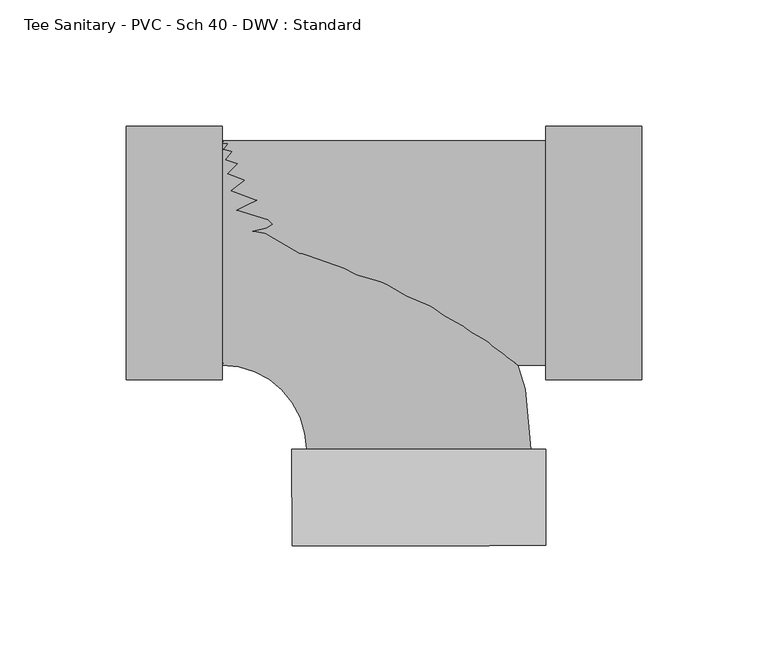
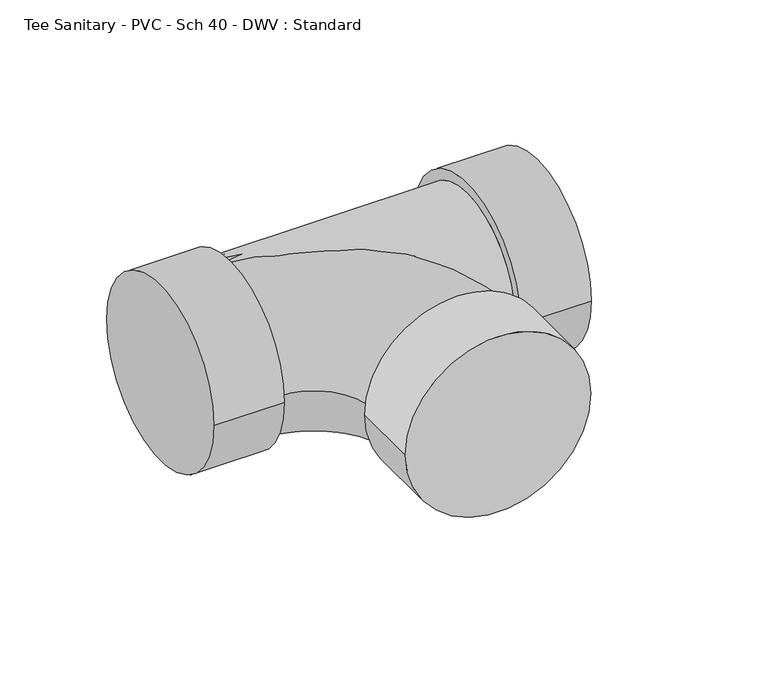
"""IFC4 building model written with IfcOpenShell, lengths in millimetres: pipe fitting geometry, Tee Sanitary - PVC - Sch 40 - DWV : Standard."""

from ifc_helpers import new_model, si_unit, point, frame, origin, place, context, project, spatial, circle_curve, ellipse_curve, trimmed, source, transform, mapped, element, save
from ifc_brep_helpers import plane_surface, cylinder_surface, revolved_surface, advanced_brep


def tee_sanitary_pvc_sch_40_dwv_standard_db5afb07(model_context):
    return source(origin(), model_context, "Body", "AdvancedBrep", [
        advanced_brep(
        [(-77.8002, -44.45, 0.0), (-77.8002, 44.45, 0.0), (-44.4025865, -77.8272698, 0.0), (44.497397, -77.7731013, 0.0), (50.337211, -115.86955, 0.0), (-50.1959704, -115.9308069, 0.0), (50.3139959, -77.7695571, 0.0), (-50.2191855, -77.830814, 0.0)],
        [
            (0, 1, circle_curve(frame((-77.8002, 0.0, 0.0), z_axis=(-1.0, 0.0, 0.0), x_axis=(0.0, 1.0, 0.0)), 44.45)),
            (1, 0, circle_curve(frame((-77.8002, 0.0, 0.0), z_axis=(-1.0, 0.0, 0.0), x_axis=(0.0, 1.0, 0.0)), 44.45)),
            (0, 2, circle_curve(frame((-77.8002, -77.8476197, 0.0), z_axis=(0.0, 0.0, -1.0), x_axis=(0.0, 1.0, 0.0)), 33.3976197)),
            (2, 3, circle_curve(frame((0.0474052, -77.8001856, 0.0), z_axis=(-0.0006093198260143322, 0.9999998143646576, 0.0), x_axis=(0.9999998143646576, 0.0006093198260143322, 0.0)), 44.45)),
            (3, 1, circle_curve(frame((-77.8002, -77.8476197, 0.0), z_axis=(0.0, 0.0, 1.0), x_axis=(0.0, 1.0, 0.0)), 122.2976197)),
            (3, 2, circle_curve(frame((0.0474052, -77.8001856, 0.0), z_axis=(-0.0006093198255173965, 0.9999998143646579, 0.0), x_axis=(0.9999998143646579, 0.0006093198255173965, 0.0)), 44.45)),
            (4, 5, circle_curve(frame((0.0706203, -115.9001785, 0.0), z_axis=(0.0006093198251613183, -0.9999998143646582, 0.0), x_axis=(-0.9999998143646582, -0.0006093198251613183, 0.0)), 50.2666)),
            (5, 4, circle_curve(frame((0.0706203, -115.9001785, 0.0), z_axis=(0.0006093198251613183, -0.9999998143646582, 0.0), x_axis=(-0.9999998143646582, -0.0006093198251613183, 0.0)), 50.2666)),
            (6, 7, circle_curve(frame((0.0474052, -77.8001856, 0.0), z_axis=(-0.0006093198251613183, 0.9999998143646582, 0.0), x_axis=(-0.9999998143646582, -0.0006093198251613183, 0.0)), 50.2666)),
            (7, 6, circle_curve(frame((0.0474052, -77.8001856, 0.0), z_axis=(-0.0006093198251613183, 0.9999998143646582, 0.0), x_axis=(-0.9999998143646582, -0.0006093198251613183, 0.0)), 50.2666)),
            (4, 6),
            (7, 5),
        ],
        [
            plane_surface(frame((-77.8002, 0.0, 0.0), z_axis=(-1.0, 0.0, 0.0), x_axis=(0.0, 0.0, 1.0))),
            revolved_surface(trimmed(ellipse_curve(frame((-77.8002, 0.0, 0.0), z_axis=(-1.0, 0.0, 0.0), x_axis=(0.0, 1.0, 0.0)), 44.45, 44.45), [point((-77.8002, -44.45, 0.0))], [point((-77.8002, 44.45, 0.0))], True, "CARTESIAN"), (-77.8002, -77.8476197, 0.0), (0.0, 0.0, -1.0)),
            revolved_surface(trimmed(ellipse_curve(frame((-77.8002, 0.0, 0.0), z_axis=(-1.0, 0.0, 0.0), x_axis=(0.0, 1.0, 0.0)), 44.45, 44.45), [point((-77.8002, 44.45, 0.0))], [point((-77.8002, -44.45, 0.0))], True, "CARTESIAN"), (-77.8002, -77.8476197, 0.0), (0.0, 0.0, -1.0)),
            plane_surface(frame((0.0706203, -115.9001785, 0.0), z_axis=(0.0006093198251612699, -0.9999998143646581, 0.0), x_axis=(0.0, 0.0, 1.0))),
            plane_surface(frame((0.0474052, -77.8001856, 0.0), z_axis=(-0.0006093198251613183, 0.9999998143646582, 0.0), x_axis=(0.0, 0.0, 1.0))),
            cylinder_surface(frame((0.0706203, -115.9001785, 0.0), z_axis=(0.0006093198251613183, -0.9999998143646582, 0.0), x_axis=(-0.9999998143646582, -0.0006093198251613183, 0.0)), 50.2666),
        ],
        [
            (0, [[1, 2]]),
            (1, [[-1, 3, 4, 5]]),
            (2, [[-2, -5, 6, -3]]),
            (3, [[7, 8]]),
            (4, [[9, 10], [-4, -6]]),
            (5, [[-7, 11, -10, 12]]),
            (5, [[-8, -12, -9, -11]]),
        ],
    ),
        advanced_brep(
        [(-77.8002, -44.45, 0.0), (50.3139959, -44.45, 0.0), (50.3139959, 44.45, 0.0), (-77.8002, 44.45, 0.0), (50.3139959, -50.2666, 0.0), (50.3139959, 50.2666, 0.0), (88.4139959, -50.2666, 0.0), (88.4139959, 50.2666, 0.0), (-115.9002, -50.2666, 0.0), (-115.9002, 50.2666, 0.0), (-77.8002, -50.2666, 0.0), (-77.8002, 50.2666, 0.0)],
        [
            (0, 1),
            (1, 2, circle_curve(frame((50.3139959, 0.0, 0.0), z_axis=(-1.0, 0.0, 0.0), x_axis=(0.0, 1.0, 0.0)), 44.45)),
            (2, 3),
            (3, 0, circle_curve(frame((-77.8002, 0.0, 0.0), z_axis=(1.0, 0.0, 0.0), x_axis=(0.0, 1.0, 0.0)), 44.45)),
            (0, 3, circle_curve(frame((-77.8002, 0.0, 0.0), z_axis=(1.0, 0.0, 0.0), x_axis=(0.0, 1.0, 0.0)), 44.45)),
            (2, 1, circle_curve(frame((50.3139959, 0.0, 0.0), z_axis=(-1.0, 0.0, 0.0), x_axis=(0.0, 1.0, 0.0)), 44.45)),
            (4, 5, circle_curve(frame((50.3139959, 0.0, 0.0), z_axis=(-1.0, 0.0, 0.0), x_axis=(0.0, 1.0, 0.0)), 50.2666)),
            (5, 4, circle_curve(frame((50.3139959, 0.0, 0.0), z_axis=(-1.0, 0.0, 0.0), x_axis=(0.0, 1.0, 0.0)), 50.2666)),
            (6, 7, circle_curve(frame((88.4139959, 0.0, 0.0), z_axis=(1.0, 0.0, 0.0), x_axis=(0.0, 1.0, 0.0)), 50.2666)),
            (7, 6, circle_curve(frame((88.4139959, 0.0, 0.0), z_axis=(1.0, 0.0, 0.0), x_axis=(0.0, 1.0, 0.0)), 50.2666)),
            (4, 6),
            (7, 5),
            (8, 9, circle_curve(frame((-115.9002, 0.0, 0.0), z_axis=(-1.0, 0.0, 0.0), x_axis=(0.0, 1.0, 0.0)), 50.2666)),
            (9, 8, circle_curve(frame((-115.9002, 0.0, 0.0), z_axis=(-1.0, 0.0, 0.0), x_axis=(0.0, 1.0, 0.0)), 50.2666)),
            (10, 11, circle_curve(frame((-77.8002, 0.0, 0.0), z_axis=(1.0, 0.0, 0.0), x_axis=(0.0, 1.0, 0.0)), 50.2666)),
            (11, 10, circle_curve(frame((-77.8002, 0.0, 0.0), z_axis=(1.0, 0.0, 0.0), x_axis=(0.0, 1.0, 0.0)), 50.2666)),
            (8, 10),
            (11, 9),
        ],
        [
            cylinder_surface(frame((-77.8002, 0.0, 0.0), z_axis=(-1.0, 0.0, 0.0), x_axis=(0.0, 1.0, 0.0)), 44.45),
            plane_surface(frame((50.3139959, 0.0, 0.0), z_axis=(-1.0, 0.0, 0.0), x_axis=(0.0, 0.0, 1.0))),
            plane_surface(frame((88.4139959, 0.0, 0.0), z_axis=(1.0, 0.0, 0.0), x_axis=(0.0, 0.0, 1.0))),
            cylinder_surface(frame((50.3139959, 0.0, 0.0), z_axis=(-1.0, 0.0, 0.0), x_axis=(0.0, 1.0, 0.0)), 50.2666),
            plane_surface(frame((-115.9002, 0.0, 0.0), z_axis=(-1.0, 0.0, 0.0), x_axis=(0.0, 0.0, 1.0))),
            plane_surface(frame((-77.8002, 0.0, 0.0), z_axis=(1.0, 0.0, 0.0), x_axis=(0.0, 0.0, 1.0))),
            cylinder_surface(frame((-115.9002, 0.0, 0.0), z_axis=(-1.0, 0.0, 0.0), x_axis=(0.0, 1.0, 0.0)), 50.2666),
        ],
        [
            (0, [[1, 2, 3, 4]]),
            (0, [[-1, 5, -3, 6]]),
            (1, [[7, 8], [-2, -6]]),
            (2, [[9, 10]]),
            (3, [[-7, 11, -10, 12]]),
            (3, [[-8, -12, -9, -11]]),
            (4, [[13, 14]]),
            (5, [[15, 16], [-4, -5]]),
            (6, [[-13, 17, -16, 18]]),
            (6, [[-14, -18, -15, -17]]),
        ],
    ),
    ])


if __name__ == "__main__":
    model = new_model("IFC4")
    model_context = context("Model", 3, world=origin())
    ifc_project = project(units=[si_unit("LENGTHUNIT", "METRE", prefix="MILLI")], contexts=[model_context])
    site = spatial("IfcSite", under=ifc_project)
    building = spatial("IfcBuilding", under=site)
    placement = place(None, origin())
    tee_sanitary_pvc_sch_40_dwv_standard_shape = tee_sanitary_pvc_sch_40_dwv_standard_db5afb07(model_context)
    element("IfcPipeFitting", 1, ObjectType="Tee Sanitary - PVC - Sch 40 - DWV : Standard", at=placement, inside=building, context=model_context, shape_type="MappedRepresentation", body=[
        mapped(tee_sanitary_pvc_sch_40_dwv_standard_shape, transform((0.0, 0.0, 0.0), x_axis=(1.0, 0.0, 0.0), y_axis=(0.0, 1.0, 0.0), z_axis=(0.0, 0.0, 1.0))),
    ])
    save(model, "model.ifc")
